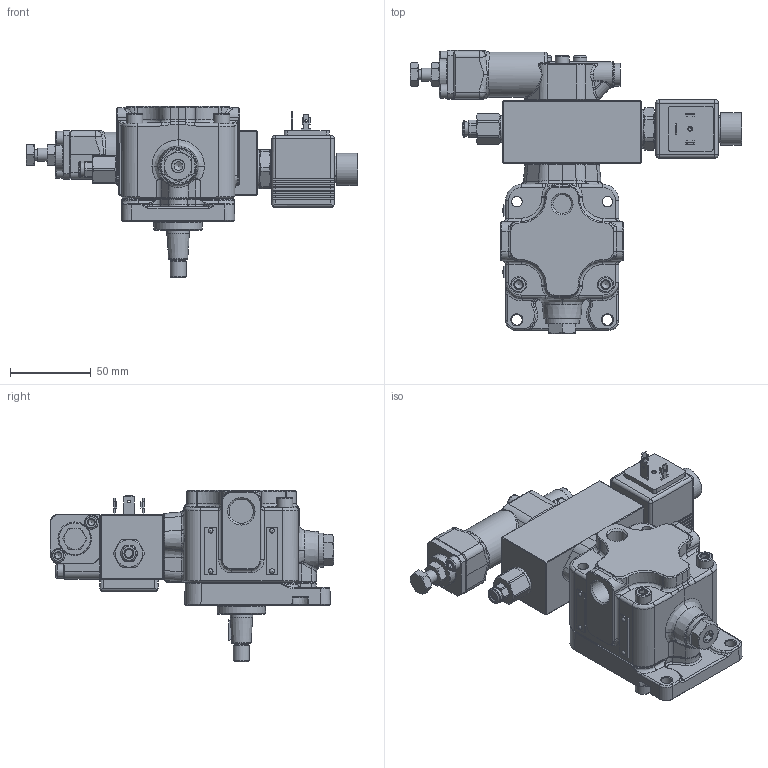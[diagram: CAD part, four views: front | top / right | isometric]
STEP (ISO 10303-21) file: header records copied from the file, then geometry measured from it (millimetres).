
FILE_DESCRIPTION(/* description */ (''),/* implementation_level */ '2;1');
FILE_NAME(/* name */ 'W:\Tecnico\A-Archivio\Modelli 3D\23\2300811040_Semplifica_1.stp',/* time_stamp */ '2022-04-13T13:38:47+02:00',/* author */ ('marcop'),/* organization */ (''),/* preprocessor_version */ 'ST-DEVELOPER v18.1',/* originating_system */ 'Autodesk Inventor 2022',/* authorisation */ '');
FILE_SCHEMA (('AUTOMOTIVE_DESIGN { 1 0 10303 214 3 1 1 }'));
Products named in the file (1): 2300811040_Semplifica_1
Bounding box: 205.15 x 175 x 106 mm (x, y, z)
Volume: 652746.4 mm3; surface area: 94050.7 mm2
Topology: 3 solids, 3 shells, 1386 faces, 3346 edges, 2017 vertices
Faces by surface type: plane 596, bspline 261, cylinder 247, cone 232, torus 36, sphere 14
Full cylindrical faces by diameter (mm): 1.6 x2, 1.65 x1, 2 x3, 4.917 x3, 5 x3, 5.5 x6, 6 x2, 6.5 x9, 8 x2, 8.376 x1, 8.5 x5, 8.8 x1, 10 x4, 11.445 x1, 12.5 x1, 13.1 x3, 14 x4, 14.95 x2, 16 x1, 16.5 x1, 20 x3, 21 x1, 22 x2, 22.8 x1, 24 x1, 28 x1, 30 x1
Entity records: 64509 total; most frequent: CARTESIAN_POINT 32662, ORIENTED_EDGE 6654, DIRECTION 5900, EDGE_CURVE 3327, AXIS2_PLACEMENT_3D 2171, VERTEX_POINT 2017, LINE 1558, VECTOR 1558
